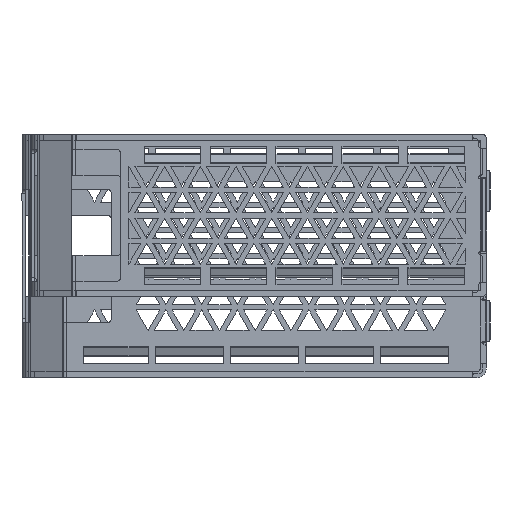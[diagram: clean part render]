
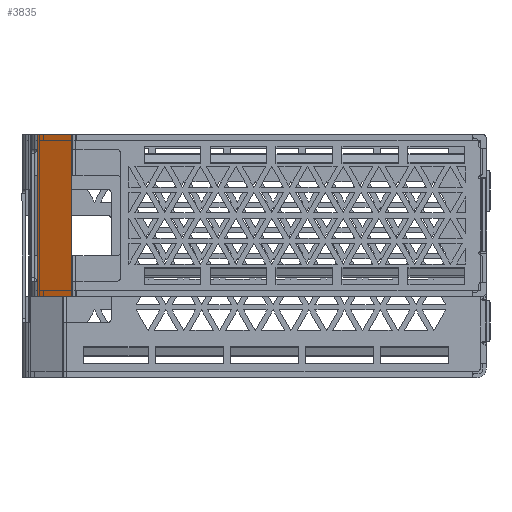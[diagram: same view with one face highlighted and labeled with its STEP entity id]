
A CAD part, left-side view. The second image highlights one B-rep face of the part: STEP entity #3835.
In plain terms, the highlighted planar face has unit normal (-0.905, 0.426, 0).
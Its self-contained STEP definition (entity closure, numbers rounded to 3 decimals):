
#1724=FACE_OUTER_BOUND('',#21027,.T.);
#3835=ADVANCED_FACE('',(#1724),#5819,.T.);
#5819=PLANE('',#47587);
#10407=LINE('',#68355,#16077);
#10420=LINE('',#68396,#16090);
#10424=LINE('',#68457,#16094);
#10425=LINE('',#68461,#16095);
#10426=LINE('',#68463,#16096);
#10427=LINE('',#68464,#16097);
#16077=VECTOR('',#55681,1.);
#16090=VECTOR('',#55722,1.);
#16094=VECTOR('',#55742,1.);
#16095=VECTOR('',#55747,1.);
#16096=VECTOR('',#55748,1.);
#16097=VECTOR('',#55749,1.);
#21027=EDGE_LOOP('',(#29984,#29985,#29986,#29987,#29988,#29989));
#29984=ORIENTED_EDGE('',*,*,#43280,.F.);
#29985=ORIENTED_EDGE('',*,*,#43278,.F.);
#29986=ORIENTED_EDGE('',*,*,#43281,.T.);
#29987=ORIENTED_EDGE('',*,*,#43262,.F.);
#29988=ORIENTED_EDGE('',*,*,#43241,.F.);
#29989=ORIENTED_EDGE('',*,*,#43282,.F.);
#37849=VERTEX_POINT('',#68354);
#37850=VERTEX_POINT('',#68356);
#37864=VERTEX_POINT('',#68397);
#37872=VERTEX_POINT('',#68456);
#37873=VERTEX_POINT('',#68458);
#37874=VERTEX_POINT('',#68462);
#43241=EDGE_CURVE('',#37849,#37850,#10407,.T.);
#43262=EDGE_CURVE('',#37850,#37864,#10420,.T.);
#43278=EDGE_CURVE('',#37872,#37873,#10424,.T.);
#43280=EDGE_CURVE('',#37873,#37874,#10425,.T.);
#43281=EDGE_CURVE('',#37872,#37864,#10426,.T.);
#43282=EDGE_CURVE('',#37874,#37849,#10427,.T.);
#47587=AXIS2_PLACEMENT_3D('',#68465,#55750,#55751);
#55681=DIRECTION('',(0.,0.,1.));
#55722=DIRECTION('',(0.,0.,1.));
#55742=DIRECTION('',(0.,0.,-1.));
#55747=DIRECTION('',(0.426,0.905,0.));
#55748=DIRECTION('',(0.426,0.905,0.));
#55749=DIRECTION('',(0.,0.,1.));
#55750=DIRECTION('',(-0.905,0.426,0.));
#55751=DIRECTION('',(-0.426,-0.905,0.));
#68354=CARTESIAN_POINT('',(-58.359,56.393,-16.3));
#68355=CARTESIAN_POINT('',(-58.359,56.393,-9.9));
#68356=CARTESIAN_POINT('',(-58.359,56.393,16.3));
#68396=CARTESIAN_POINT('',(-58.359,56.393,-9.9));
#68397=CARTESIAN_POINT('',(-58.359,56.393,20.));
#68456=CARTESIAN_POINT('',(-62.233,48.169,20.));
#68457=CARTESIAN_POINT('',(-62.233,48.169,-9.9));
#68458=CARTESIAN_POINT('',(-62.233,48.169,-20.));
#68461=CARTESIAN_POINT('',(-60.051,52.801,-20.));
#68462=CARTESIAN_POINT('',(-58.359,56.393,-20.));
#68463=CARTESIAN_POINT('',(-64.492,43.372,20.));
#68464=CARTESIAN_POINT('',(-58.359,56.393,-9.9));
#68465=CARTESIAN_POINT('',(-60.051,52.801,-9.9));
